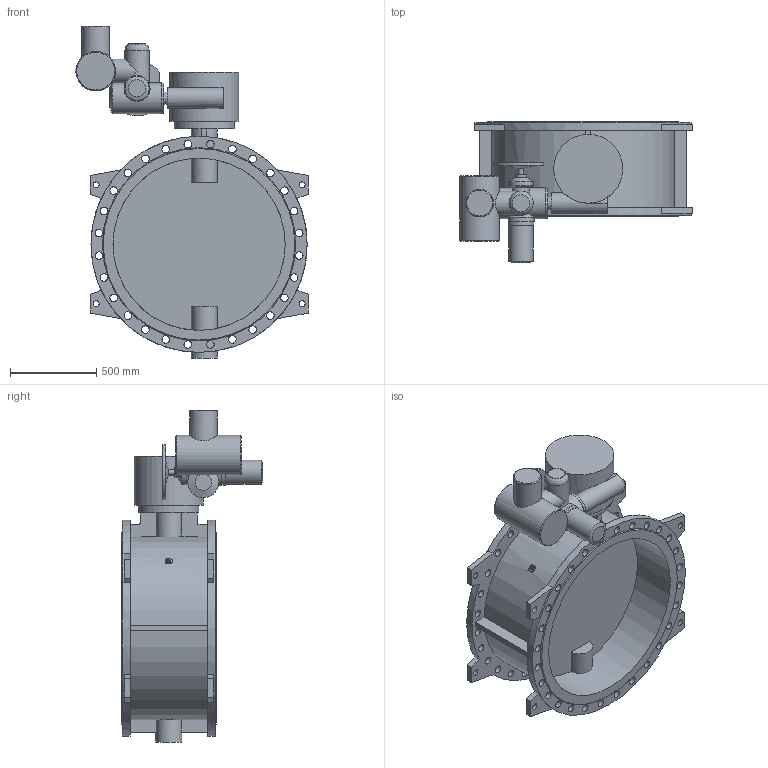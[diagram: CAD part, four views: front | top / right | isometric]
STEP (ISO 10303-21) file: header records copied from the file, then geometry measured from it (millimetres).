
FILE_DESCRIPTION(('STEP AP203'), '1');
FILE_NAME('Çàòâîð 023F.Z DN1000 PN16 + ðåäóêòîð + ÌÒ903.À30 ñ ÁÓ', '', ('UNSPECIFIED'), ('UNSPECIFIED'), 'ASCON STEP Converter 1.6', 'ASCON Math Kernel', '');
FILE_SCHEMA(('CONFIG_CONTROL_DESIGN'));
Length unit declared in the file: millimetre
Bounding box: 1348 x 819 x 1927 mm (x, y, z)
Volume: 240428981 mm3; surface area: 9178519.6 mm2
Topology: 1 solids, 1 shells, 266 faces, 654 edges, 428 vertices
Faces by surface type: cylinder 132, plane 120, cone 13, torus 1
Full cylindrical faces by diameter (mm): 14 x4, 18 x12, 23 x8, 32 x1, 35 x8, 44 x56, 60 x1, 70 x1, 100 x1, 120 x1, 140 x4, 147 x1, 150 x1, 151 x1, 160 x1, 175 x1, 180 x1, 230 x1, 350 x1, 400 x1, 1000 x2, 1255 x2
Entity records: 11811 total; most frequent: CARTESIAN_POINT 3420, DIRECTION 1307, ORIENTED_EDGE 1056, EDGE_LOOP 555, AXIS2_PLACEMENT_3D 554, EDGE_CURVE 528, VERTEX_POINT 427, FACE_BOUND 324
